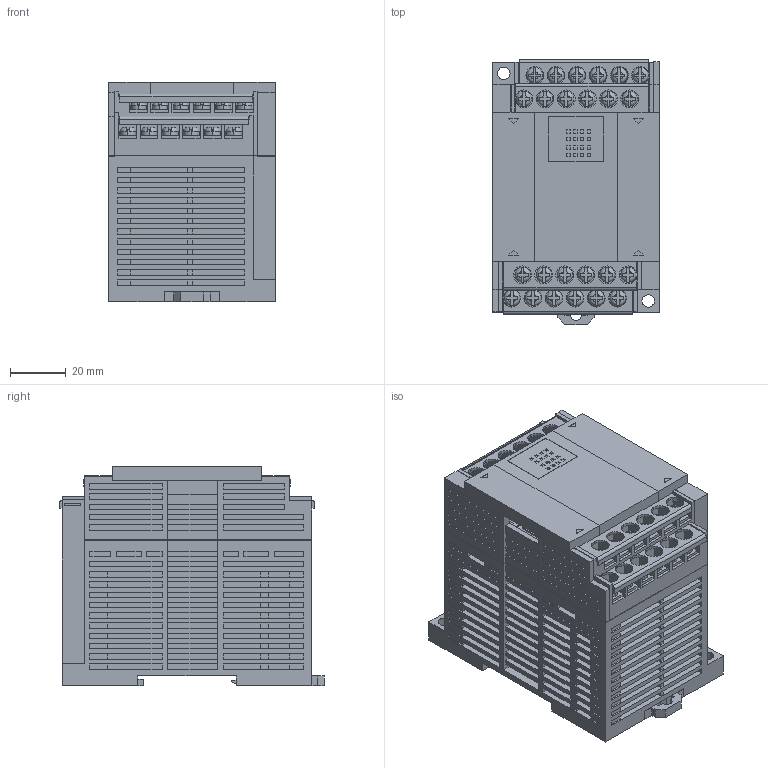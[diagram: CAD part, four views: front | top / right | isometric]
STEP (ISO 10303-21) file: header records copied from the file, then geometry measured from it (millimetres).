
FILE_DESCRIPTION (( 'STEP AP214' ), '1' );
FILE_NAME ('afpx-e16.step', '2009-08-28T01:49:58', ( '' ), ( 'PanasonicElectricWorks' ), '', '', '' );
FILE_SCHEMA (( 'AUTOMOTIVE_DESIGN' ));
Length unit declared in the file: millimetre
Products named in the file (1): afpx-e16
Bounding box: 60 x 95.4 x 79 mm (x, y, z)
Volume: 350407.6 mm3; surface area: 66968.9 mm2
Topology: 3 solids, 3 shells, 2237 faces, 6078 edges, 3979 vertices
Faces by surface type: plane 2057, cylinder 132, torus 48
Entity records: 95172 total; most frequent: CARTESIAN_POINT 14071, ORIENTED_EDGE 12156, DIRECTION 10786, EDGE_CURVE 6078, VECTOR 5270, LINE 5270, VERTEX_POINT 3979, AXIS2_PLACEMENT_3D 2758
